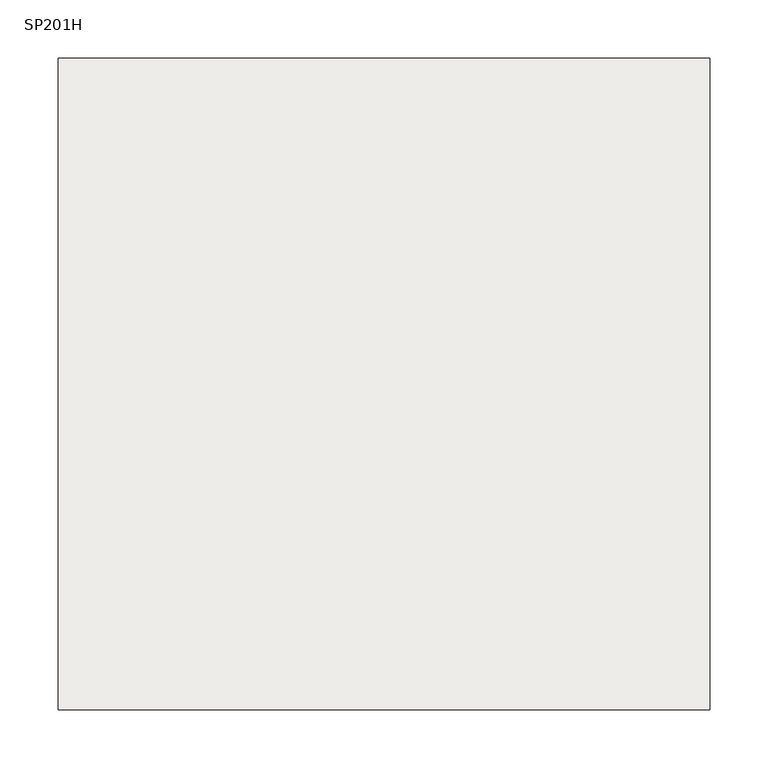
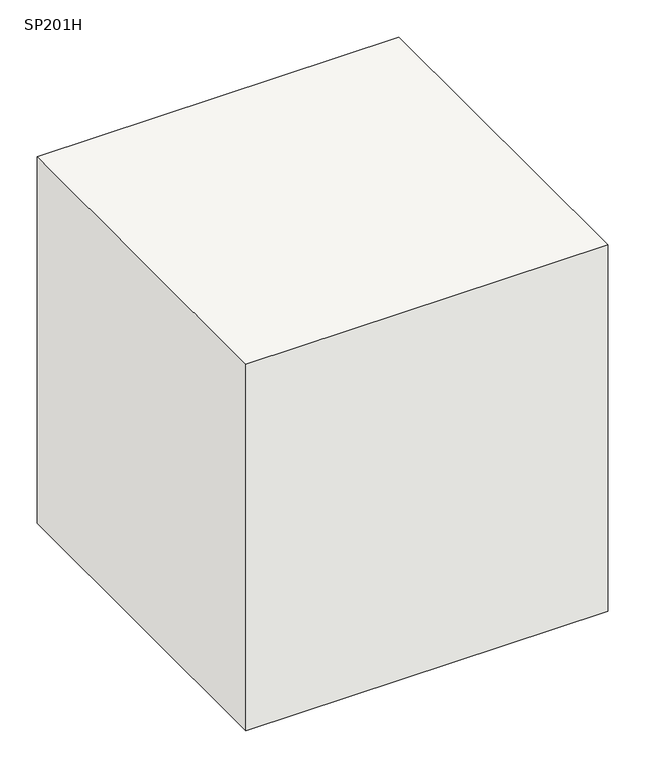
"""IFC4 building model written with IfcOpenShell, lengths in millimetres: slab geometry, 柱形_SP : SP201H."""

from ifc_helpers import new_model, si_unit, frame, origin, place, context, project, spatial, polyline, outline, extrude, source, transform, mapped, element, save


def sp201h_40aa0069(model_context):
    return source(origin(), model_context, "Body", "SweptSolid", [
        extrude(outline(polyline([(280.0, 280.0), (280.0, -280.0), (-280.0, -280.0), (-280.0, 280.0), (280.0, 280.0)])), frame((0.0, 0.0, -600.0), z_axis=(0.0, 0.0, 1.0), x_axis=(1.0, 0.0, 0.0)), (0.0, 0.0, 1.0), 600.0),
    ])


if __name__ == "__main__":
    model = new_model("IFC4")
    model_context = context("Model", 3, world=origin())
    ifc_project = project(units=[si_unit("LENGTHUNIT", "METRE", prefix="MILLI")], contexts=[model_context])
    site = spatial("IfcSite", under=ifc_project)
    building = spatial("IfcBuilding", under=site)
    placement = place(None, origin())
    sp201h_shape = sp201h_40aa0069(model_context)
    element("IfcSlab", 1, ObjectType="柱形_SP : SP201H", at=placement, inside=building, context=model_context, shape_type="MappedRepresentation", body=[
        mapped(sp201h_shape, transform((0.0, 0.0, 0.0), x_axis=(1.0, 0.0, 0.0), y_axis=(0.0, 1.0, 0.0), z_axis=(0.0, 0.0, 1.0))),
    ])
    save(model, "model.ifc")
